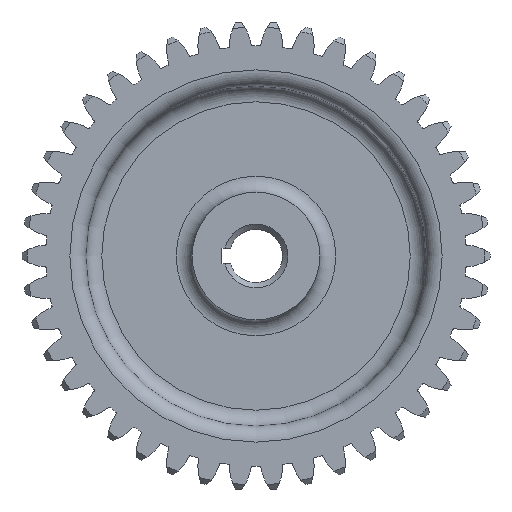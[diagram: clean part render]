
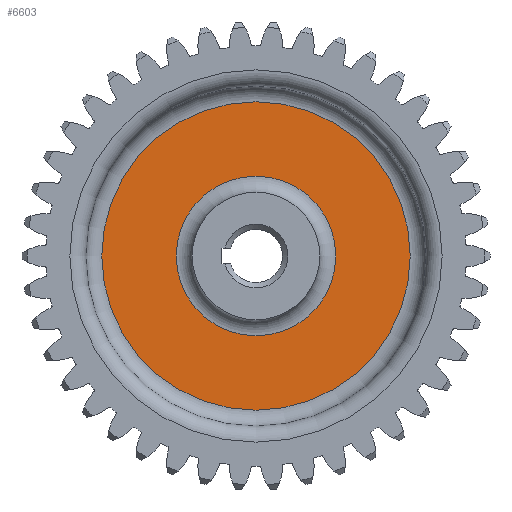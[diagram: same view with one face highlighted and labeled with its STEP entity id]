
A CAD part, left-side view. The second image highlights one B-rep face of the part: STEP entity #6603.
In plain terms, the highlighted planar face has unit normal (-1, 0, 0).
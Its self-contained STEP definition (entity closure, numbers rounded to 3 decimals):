
#194=FACE_BOUND('',#1703,.T.);
#986=PLANE('',#7592);
#1341=FACE_OUTER_BOUND('',#1702,.T.);
#1702=EDGE_LOOP('',(#6157));
#1703=EDGE_LOOP('',(#6158));
#2314=CIRCLE('',#7591,15.);
#2315=CIRCLE('',#7593,29.);
#3017=VERTEX_POINT('',#12405);
#3018=VERTEX_POINT('',#12409);
#4064=EDGE_CURVE('',#3017,#3017,#2314,.T.);
#4065=EDGE_CURVE('',#3018,#3018,#2315,.T.);
#6157=ORIENTED_EDGE('',*,*,#4065,.F.);
#6158=ORIENTED_EDGE('',*,*,#4064,.T.);
#6603=ADVANCED_FACE('',(#1341,#194),#986,.T.);
#7591=AXIS2_PLACEMENT_3D('',#12407,#9788,#9789);
#7592=AXIS2_PLACEMENT_3D('',#12408,#9790,#9791);
#7593=AXIS2_PLACEMENT_3D('',#12410,#9792,#9793);
#9788=DIRECTION('center_axis',(1.,0.,0.));
#9789=DIRECTION('ref_axis',(0.,0.,-1.));
#9790=DIRECTION('center_axis',(-1.,0.,0.));
#9791=DIRECTION('ref_axis',(0.,0.,1.));
#9792=DIRECTION('center_axis',(1.,0.,0.));
#9793=DIRECTION('ref_axis',(0.,0.,-1.));
#12405=CARTESIAN_POINT('',(-3.,0.,15.));
#12407=CARTESIAN_POINT('Origin',(-3.,0.,0.));
#12408=CARTESIAN_POINT('Origin',(-3.,29.,0.));
#12409=CARTESIAN_POINT('',(-3.,0.,29.));
#12410=CARTESIAN_POINT('Origin',(-3.,0.,0.));
